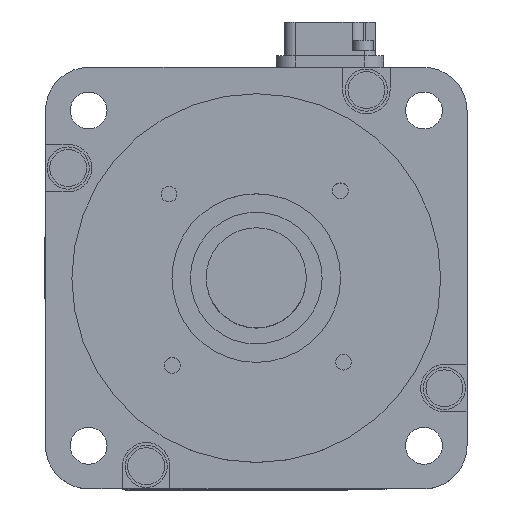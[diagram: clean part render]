
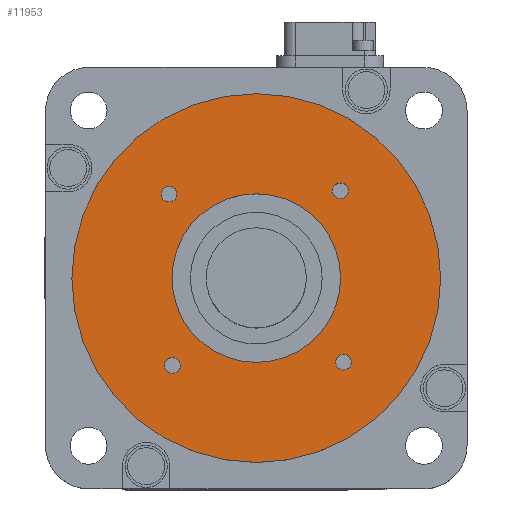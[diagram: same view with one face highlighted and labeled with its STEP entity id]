
A CAD part, top view. The second image highlights one B-rep face of the part: STEP entity #11953.
In plain terms, the highlighted planar face has unit normal (0, 0, 1).
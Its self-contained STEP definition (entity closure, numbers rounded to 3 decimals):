
#2585=CARTESIAN_POINT('',(0.,0.,124.5));
#2586=DIRECTION('',(0.,0.,1.));
#2587=DIRECTION('',(1.,0.,0.));
#2588=AXIS2_PLACEMENT_3D('',#2585,#2586,#2587);
#2590=CARTESIAN_POINT('',(0.,0.,124.5));
#2591=DIRECTION('',(0.,0.,1.));
#2592=DIRECTION('',(-1.,0.,0.));
#2593=AXIS2_PLACEMENT_3D('',#2590,#2591,#2592);
#2595=CARTESIAN_POINT('',(0.,0.,124.5));
#2596=DIRECTION('',(0.,0.,-1.));
#2597=DIRECTION('',(1.,0.,0.));
#2598=AXIS2_PLACEMENT_3D('',#2595,#2596,#2597);
#2600=CARTESIAN_POINT('',(0.,0.,124.5));
#2601=DIRECTION('',(0.,0.,-1.));
#2602=DIRECTION('',(-1.,0.,0.));
#2603=AXIS2_PLACEMENT_3D('',#2600,#2601,#2602);
#2605=CARTESIAN_POINT('',(15.951,16.57,124.5));
#2606=DIRECTION('',(0.,0.,-1.));
#2607=DIRECTION('',(-1.,0.,0.));
#2608=AXIS2_PLACEMENT_3D('',#2605,#2606,#2607);
#2610=CARTESIAN_POINT('',(15.951,16.57,124.5));
#2611=DIRECTION('',(0.,0.,-1.));
#2612=DIRECTION('',(1.,0.,0.));
#2613=AXIS2_PLACEMENT_3D('',#2610,#2611,#2612);
#2615=CARTESIAN_POINT('',(-16.57,15.951,124.5));
#2616=DIRECTION('',(0.,0.,-1.));
#2617=DIRECTION('',(0.,-1.,0.));
#2618=AXIS2_PLACEMENT_3D('',#2615,#2616,#2617);
#2620=CARTESIAN_POINT('',(-16.57,15.951,124.5));
#2621=DIRECTION('',(0.,0.,-1.));
#2622=DIRECTION('',(0.,1.,0.));
#2623=AXIS2_PLACEMENT_3D('',#2620,#2621,#2622);
#2625=CARTESIAN_POINT('',(-15.951,-16.57,124.5));
#2626=DIRECTION('',(0.,0.,-1.));
#2627=DIRECTION('',(1.,0.,0.));
#2628=AXIS2_PLACEMENT_3D('',#2625,#2626,#2627);
#2630=CARTESIAN_POINT('',(-15.951,-16.57,124.5));
#2631=DIRECTION('',(0.,0.,-1.));
#2632=DIRECTION('',(-1.,0.,0.));
#2633=AXIS2_PLACEMENT_3D('',#2630,#2631,#2632);
#2635=CARTESIAN_POINT('',(16.57,-15.951,124.5));
#2636=DIRECTION('',(0.,0.,-1.));
#2637=DIRECTION('',(0.,1.,0.));
#2638=AXIS2_PLACEMENT_3D('',#2635,#2636,#2637);
#2640=CARTESIAN_POINT('',(16.57,-15.951,124.5));
#2641=DIRECTION('',(0.,0.,-1.));
#2642=DIRECTION('',(0.,-1.,0.));
#2643=AXIS2_PLACEMENT_3D('',#2640,#2641,#2642);
#5027=CARTESIAN_POINT('',(-35.,0.,124.5));
#5028=VERTEX_POINT('',#5027);
#5029=CARTESIAN_POINT('',(35.,0.,124.5));
#5030=VERTEX_POINT('',#5029);
#5048=CARTESIAN_POINT('',(14.451,16.57,124.5));
#5050=VERTEX_POINT('',#5048);
#5053=CARTESIAN_POINT('',(17.451,16.57,124.5));
#5054=VERTEX_POINT('',#5053);
#5056=CARTESIAN_POINT('',(-16.57,14.451,124.5));
#5058=VERTEX_POINT('',#5056);
#5061=CARTESIAN_POINT('',(-16.57,17.451,124.5));
#5062=VERTEX_POINT('',#5061);
#5064=CARTESIAN_POINT('',(-14.451,-16.57,124.5));
#5066=VERTEX_POINT('',#5064);
#5069=CARTESIAN_POINT('',(-17.451,-16.57,124.5));
#5070=VERTEX_POINT('',#5069);
#5072=CARTESIAN_POINT('',(16.57,-14.451,124.5));
#5074=VERTEX_POINT('',#5072);
#5077=CARTESIAN_POINT('',(16.57,-17.451,124.5));
#5078=VERTEX_POINT('',#5077);
#6038=CARTESIAN_POINT('',(16.,0.,124.5));
#6039=CARTESIAN_POINT('',(-16.,0.,124.5));
#6040=VERTEX_POINT('',#6038);
#6041=VERTEX_POINT('',#6039);
#11913=CARTESIAN_POINT('',(0.,0.,124.5));
#11914=DIRECTION('',(0.,0.,1.));
#11915=DIRECTION('',(-1.,0.,0.));
#11916=AXIS2_PLACEMENT_3D('',#11913,#11914,#11915);
#11917=PLANE('',#11916);
#11918=ORIENTED_EDGE('',*,*,#11891,.F.);
#11920=ORIENTED_EDGE('',*,*,#11919,.F.);
#11921=EDGE_LOOP('',(#11918,#11920));
#11922=FACE_OUTER_BOUND('',#11921,.F.);
#11924=ORIENTED_EDGE('',*,*,#11923,.F.);
#11926=ORIENTED_EDGE('',*,*,#11925,.F.);
#11927=EDGE_LOOP('',(#11924,#11926));
#11928=FACE_BOUND('',#11927,.F.);
#11930=ORIENTED_EDGE('',*,*,#11929,.F.);
#11932=ORIENTED_EDGE('',*,*,#11931,.F.);
#11933=EDGE_LOOP('',(#11930,#11932));
#11934=FACE_BOUND('',#11933,.F.);
#11936=ORIENTED_EDGE('',*,*,#11935,.F.);
#11938=ORIENTED_EDGE('',*,*,#11937,.F.);
#11939=EDGE_LOOP('',(#11936,#11938));
#11940=FACE_BOUND('',#11939,.F.);
#11942=ORIENTED_EDGE('',*,*,#11941,.F.);
#11944=ORIENTED_EDGE('',*,*,#11943,.F.);
#11945=EDGE_LOOP('',(#11942,#11944));
#11946=FACE_BOUND('',#11945,.F.);
#11948=ORIENTED_EDGE('',*,*,#11947,.F.);
#11950=ORIENTED_EDGE('',*,*,#11949,.F.);
#11951=EDGE_LOOP('',(#11948,#11950));
#11952=FACE_BOUND('',#11951,.F.);
#11953=ADVANCED_FACE('',(#11922,#11928,#11934,#11940,#11946,#11952),#11917,.T.);
#2589=CIRCLE('',#2588,35.);
#2594=CIRCLE('',#2593,35.);
#2599=CIRCLE('',#2598,16.);
#2604=CIRCLE('',#2603,16.);
#2609=CIRCLE('',#2608,1.5);
#2614=CIRCLE('',#2613,1.5);
#2619=CIRCLE('',#2618,1.5);
#2624=CIRCLE('',#2623,1.5);
#2629=CIRCLE('',#2628,1.5);
#2634=CIRCLE('',#2633,1.5);
#2639=CIRCLE('',#2638,1.5);
#2644=CIRCLE('',#2643,1.5);
#11891=EDGE_CURVE('',#5030,#5028,#2589,.T.);
#11919=EDGE_CURVE('',#5028,#5030,#2594,.T.);
#11923=EDGE_CURVE('',#6040,#6041,#2599,.T.);
#11925=EDGE_CURVE('',#6041,#6040,#2604,.T.);
#11929=EDGE_CURVE('',#5050,#5054,#2609,.T.);
#11931=EDGE_CURVE('',#5054,#5050,#2614,.T.);
#11935=EDGE_CURVE('',#5058,#5062,#2619,.T.);
#11937=EDGE_CURVE('',#5062,#5058,#2624,.T.);
#11941=EDGE_CURVE('',#5066,#5070,#2629,.T.);
#11943=EDGE_CURVE('',#5070,#5066,#2634,.T.);
#11947=EDGE_CURVE('',#5074,#5078,#2639,.T.);
#11949=EDGE_CURVE('',#5078,#5074,#2644,.T.);
